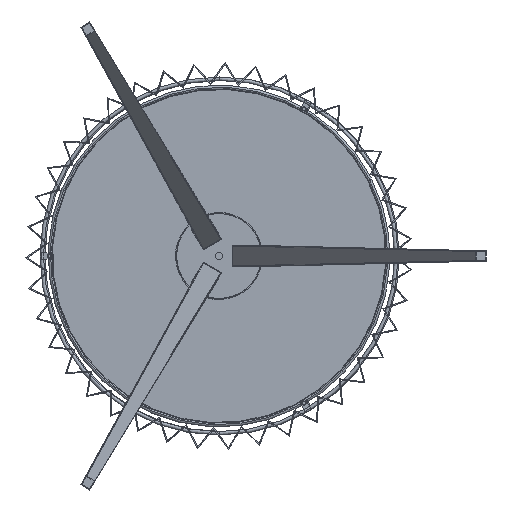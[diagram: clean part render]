
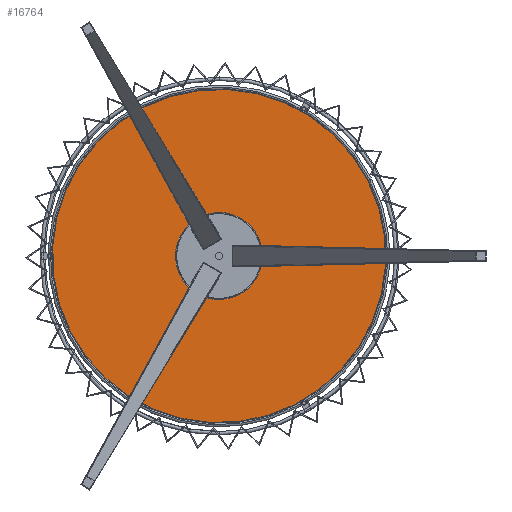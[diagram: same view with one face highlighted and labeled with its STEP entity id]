
A CAD part, front view. The second image highlights one B-rep face of the part: STEP entity #16764.
In plain terms, the highlighted planar face has unit normal (0, -1, 0).
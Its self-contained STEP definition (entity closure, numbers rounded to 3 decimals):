
#832 = DIRECTION ( 'NONE',  ( 0., 0., -1. ) ) ;
#972 = EDGE_CURVE ( 'NONE', #14344, #23886, #5076, .T. ) ;
#1946 = DIRECTION ( 'NONE',  ( 0., 0., -1. ) ) ;
#4552 = EDGE_LOOP ( 'NONE', ( #22290, #5886 ) ) ;
#5076 = CIRCLE ( 'NONE', #24979, 198. ) ;
#5784 = EDGE_CURVE ( 'NONE', #23886, #14344, #8601, .T. ) ;
#5886 = ORIENTED_EDGE ( 'NONE', *, *, #5784, .T. ) ;
#6168 = CARTESIAN_POINT ( 'NONE',  ( 0., 2., 0. ) ) ;
#8601 = CIRCLE ( 'NONE', #25256, 198. ) ;
#9060 = CARTESIAN_POINT ( 'NONE',  ( 0., 2., 198. ) ) ;
#12841 = DIRECTION ( 'NONE',  ( 0., 0., -1. ) ) ;
#14344 = VERTEX_POINT ( 'NONE', #20947 ) ;
#15180 = FACE_OUTER_BOUND ( 'NONE', #4552, .T. ) ;
#15191 = CARTESIAN_POINT ( 'NONE',  ( 0., 2., 0. ) ) ;
#16764 = ADVANCED_FACE ( 'NONE', ( #15180 ), #23853, .T. ) ;
#20947 = CARTESIAN_POINT ( 'NONE',  ( 0., 2., -198. ) ) ;
#21017 = DIRECTION ( 'NONE',  ( 0., -1., 0. ) ) ;
#22290 = ORIENTED_EDGE ( 'NONE', *, *, #972, .T. ) ;
#23573 = CARTESIAN_POINT ( 'NONE',  ( 198., 2., 0. ) ) ;
#23841 = DIRECTION ( 'NONE',  ( 0., -1., 0. ) ) ;
#23853 = PLANE ( 'NONE',  #25573 ) ;
#23886 = VERTEX_POINT ( 'NONE', #9060 ) ;
#24979 = AXIS2_PLACEMENT_3D ( 'NONE', #15191, #21017, #832 ) ;
#25256 = AXIS2_PLACEMENT_3D ( 'NONE', #6168, #23841, #12841 ) ;
#25573 = AXIS2_PLACEMENT_3D ( 'NONE', #23573, #28047, #1946 ) ;
#28047 = DIRECTION ( 'NONE',  ( 0., -1., 0. ) ) ;
